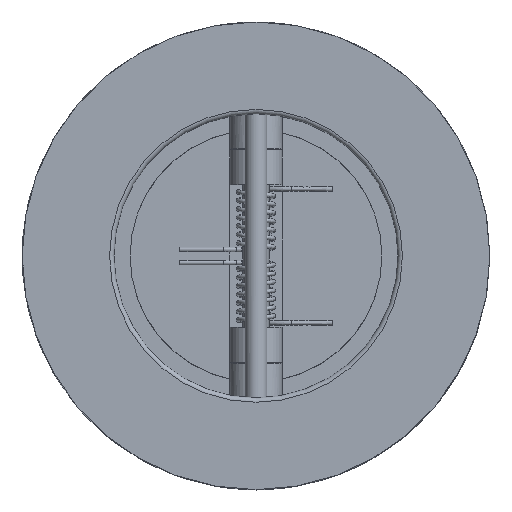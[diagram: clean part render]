
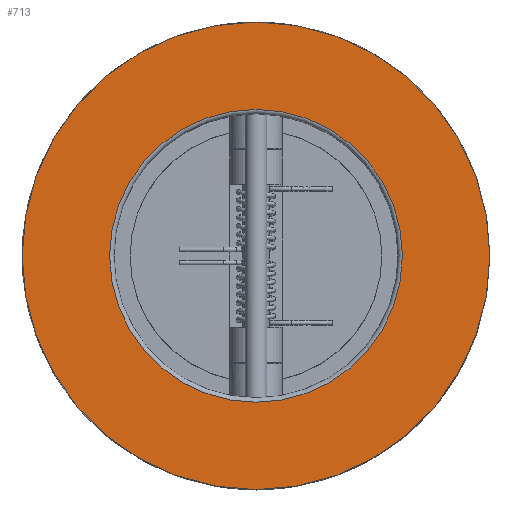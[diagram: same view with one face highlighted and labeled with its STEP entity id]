
A CAD part, top view. The second image highlights one B-rep face of the part: STEP entity #713.
In plain terms, the highlighted planar face has unit normal (0, 0, 1).
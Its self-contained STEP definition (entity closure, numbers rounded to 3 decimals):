
#713 = ADVANCED_FACE( '', ( #1524, #1525 ), #1526, .F. );
#1524 = FACE_BOUND( '', #7458, .T. );
#1525 = FACE_OUTER_BOUND( '', #7459, .T. );
#1526 = PLANE( '', #7460 );
#7458 = EDGE_LOOP( '', ( #11390 ) );
#7459 = EDGE_LOOP( '', ( #11391 ) );
#7460 = AXIS2_PLACEMENT_3D( '', #11392, #11393, #11394 );
#11390 = ORIENTED_EDGE( '', *, *, #12717, .T. );
#11391 = ORIENTED_EDGE( '', *, *, #12732, .F. );
#11392 = CARTESIAN_POINT( '', ( 0., 0., 21.5 ) );
#11393 = DIRECTION( '', ( 0., 0., -1. ) );
#11394 = DIRECTION( '', ( -1., 0., 0. ) );
#12717 = EDGE_CURVE( '', #13994, #13994, #13995, .T. );
#12732 = EDGE_CURVE( '', #14012, #14012, #14013, .T. );
#13994 = VERTEX_POINT( '', #20407 );
#13995 = CIRCLE( '', #20408, 33.5 );
#14012 = VERTEX_POINT( '', #20450 );
#14013 = CIRCLE( '', #20451, 53.5 );
#20407 = CARTESIAN_POINT( '', ( -33.5, 0., 21.5 ) );
#20408 = AXIS2_PLACEMENT_3D( '', #21169, #21170, #21171 );
#20450 = CARTESIAN_POINT( '', ( 53.5, 0., 21.5 ) );
#20451 = AXIS2_PLACEMENT_3D( '', #21182, #21183, #21184 );
#21169 = CARTESIAN_POINT( '', ( 0., 0., 21.5 ) );
#21170 = DIRECTION( '', ( 0., 0., -1. ) );
#21171 = DIRECTION( '', ( -1., 0., 0. ) );
#21182 = CARTESIAN_POINT( '', ( 0., 0., 21.5 ) );
#21183 = DIRECTION( '', ( 0., 0., -1. ) );
#21184 = DIRECTION( '', ( 1., 0., 0. ) );
